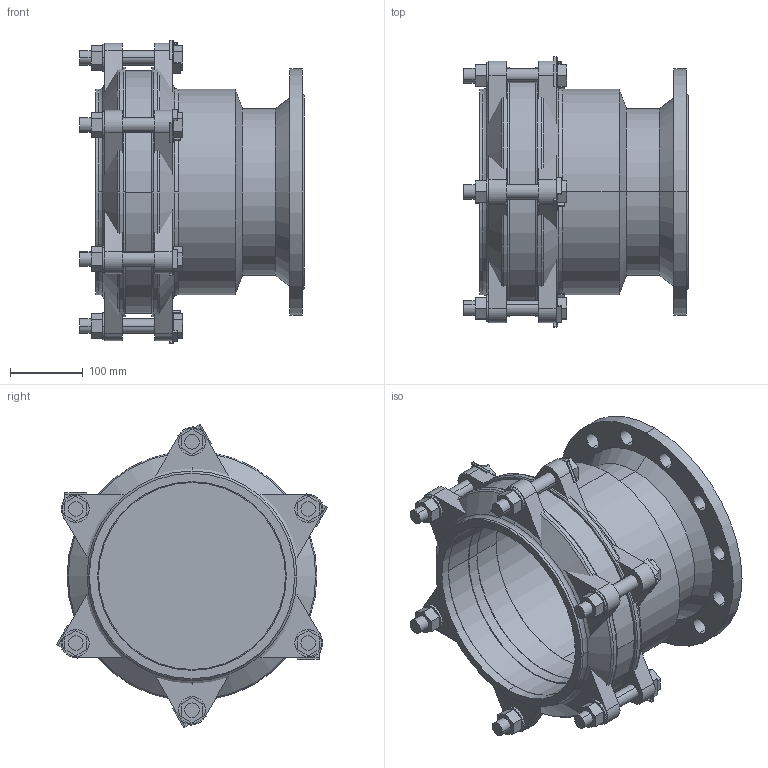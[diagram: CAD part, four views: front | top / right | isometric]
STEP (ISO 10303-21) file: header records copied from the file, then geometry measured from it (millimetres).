
FILE_DESCRIPTION(('STEP AP214'),'1');
FILE_NAME('EM10005661 DN 200-225.STP','2015-01-29T13:36:21',(' '),(' '),'Spatial InterOp 3D',' ',' ');
FILE_SCHEMA(('automotive_design'));
Length unit declared in the file: millimetre
Products named in the file (34): 3D-Objekt
Bounding box: 310 x 373.46 x 417.96 mm (x, y, z)
Volume: 6773629.3 mm3; surface area: 1442485.6 mm2
Topology: 34 solids, 34 shells, 425 faces, 996 edges, 662 vertices
Faces by surface type: plane 271, cylinder 126, cone 16, torus 12
Entity records: 16464 total; most frequent: DIRECTION 2228, CARTESIAN_POINT 2117, ORIENTED_EDGE 1992, EDGE_CURVE 996, AXIS2_PLACEMENT_3D 773, LINE 682, VECTOR 682, VERTEX_POINT 662
